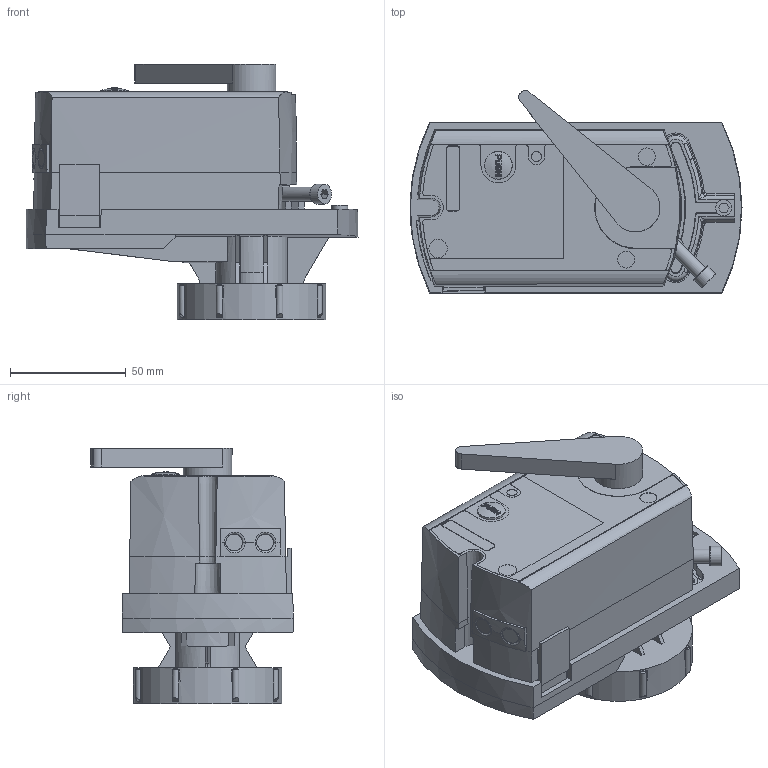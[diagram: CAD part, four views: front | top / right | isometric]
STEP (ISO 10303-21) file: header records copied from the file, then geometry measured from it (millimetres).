
FILE_DESCRIPTION(/* description */ (''),/* implementation_level */ '2;1');
FILE_NAME(/* name */ 'A5W00006882_02.stp',/* time_stamp */ '2016-02-19T15:46:14+01:00',/* author */ (''),/* organization */ (''),/* preprocessor_version */ 'ST-DEVELOPER v15',/* originating_system */ 'SIEMENS PLM Software NX 8.5',/* authorisation */ '');
FILE_SCHEMA (('AUTOMOTIVE_DESIGN { 1 0 10303 214 3 1 1 1 }'));
Length unit declared in the file: millimetre
Products named in the file (1): ext_1580D225se06
Bounding box: 143.15 x 87.31 x 109.95 mm (x, y, z)
Volume: 536924.9 mm3; surface area: 69473.9 mm2
Topology: 1 solids, 2 shells, 719 faces, 1850 edges, 1155 vertices
Faces by surface type: plane 275, cylinder 139, bspline 109, cone 69, torus 63, sphere 38, extrusion 26
Full cylindrical faces by diameter (mm): 4 x1, 4.4 x1, 5.3 x4, 6 x1, 7 x1, 7.2 x1, 7.3 x1, 7.4 x1, 7.9 x1, 8.5 x1, 21 x1, 29.95 x1, 64 x1
Entity records: 26932 total; most frequent: CARTESIAN_POINT 7875, ORIENTED_EDGE 3576, DIRECTION 3256, EDGE_CURVE 1788, AXIS2_PLACEMENT_3D 1236, VERTEX_POINT 1136, EDGE_LOOP 788, VECTOR 784
